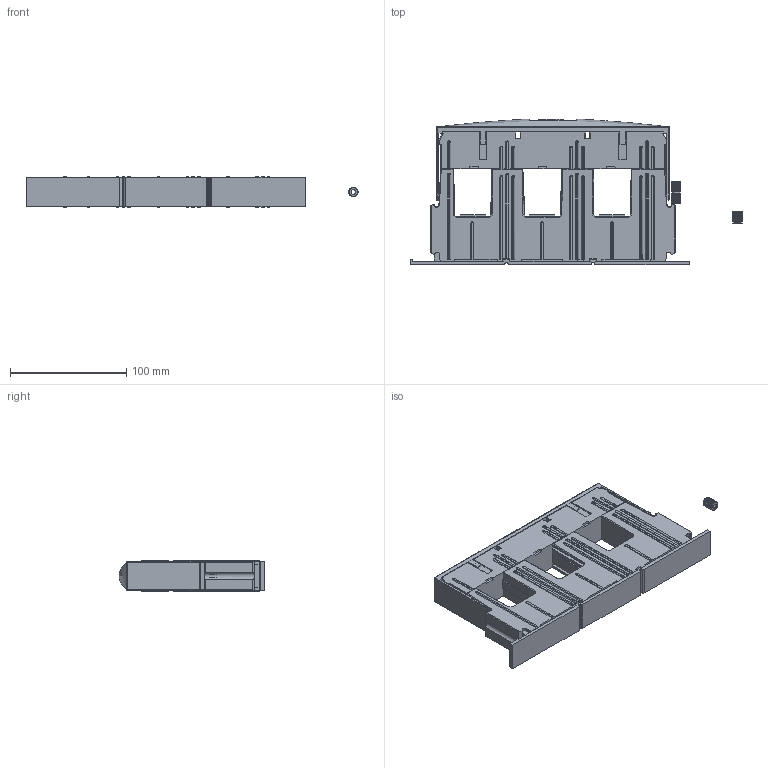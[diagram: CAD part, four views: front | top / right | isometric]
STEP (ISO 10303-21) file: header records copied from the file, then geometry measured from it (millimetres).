
FILE_DESCRIPTION (( 'STEP AP214' ), '1' );
FILE_NAME ('52231.STEP', '2021-08-11T00:23:09', ( '' ), ( '' ), 'SwSTEP 2.0', 'SolidWorks 2017', '' );
FILE_SCHEMA (( 'AUTOMOTIVE_DESIGN' ));
Length unit declared in the file: millimetre
Products named in the file (2): 52231
Bounding box: 285.34 x 125.32 x 26 mm (x, y, z)
Volume: 459602.4 mm3; surface area: 137341.3 mm2
Topology: 7 solids, 27 shells, 2478 faces, 6817 edges, 4408 vertices
Faces by surface type: plane 1720, cylinder 516, bspline 121, cone 102, sphere 13, torus 6
Full cylindrical faces by diameter (mm): 3.5 x8, 4 x4, 4.2 x1, 6.5 x6, 7 x2, 12 x2, 13 x3
Entity records: 116055 total; most frequent: CARTESIAN_POINT 28978, ORIENTED_EDGE 13474, DIRECTION 11064, EDGE_CURVE 6737, LINE 4920, VECTOR 4920, VERTEX_POINT 4399, AXIS2_PLACEMENT_3D 3072
